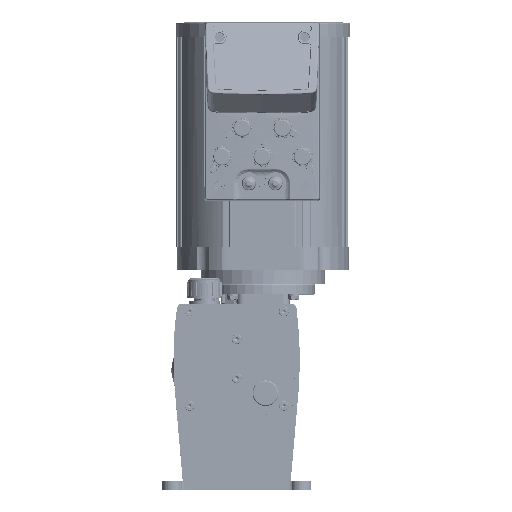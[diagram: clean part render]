
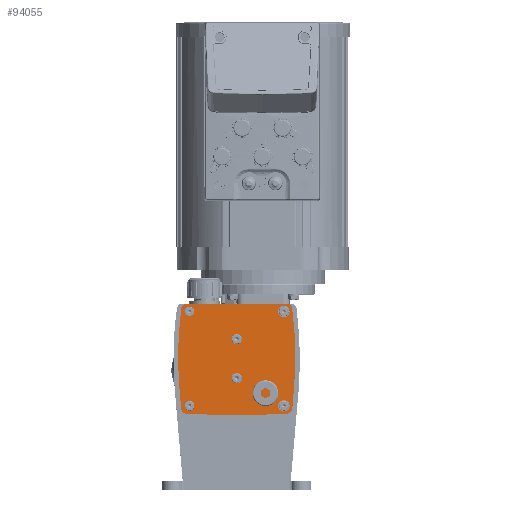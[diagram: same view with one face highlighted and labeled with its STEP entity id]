
A CAD part, top view. The second image highlights one B-rep face of the part: STEP entity #94055.
In plain terms, the highlighted planar face has unit normal (0, 0, 1).
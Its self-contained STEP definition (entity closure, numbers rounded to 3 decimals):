
#2342 = LINE ( 'NONE', #170065, #41292 ) ;
#4731 = DIRECTION ( 'NONE',  ( -0.09, 0.996, 0. ) ) ;
#8148 = CARTESIAN_POINT ( 'NONE',  ( 41.84, -10.59, 65. ) ) ;
#9947 = VECTOR ( 'NONE', #27675, 1000. ) ;
#10126 = EDGE_CURVE ( 'NONE', #206863, #45469, #77484, .T. ) ;
#10247 = CARTESIAN_POINT ( 'NONE',  ( -7.848, -32.099, 65. ) ) ;
#11480 = AXIS2_PLACEMENT_3D ( 'NONE', #79733, #195756, #96410 ) ;
#12718 = VECTOR ( 'NONE', #194091, 1000. ) ;
#14316 = CARTESIAN_POINT ( 'NONE',  ( -276.799, 18.889, 65. ) ) ;
#17786 = VECTOR ( 'NONE', #154153, 1000. ) ;
#20607 = DIRECTION ( 'NONE',  ( -1., 0., 0. ) ) ;
#27675 = DIRECTION ( 'NONE',  ( -0.999, -0.033, 0. ) ) ;
#28172 = CARTESIAN_POINT ( 'NONE',  ( 35.214, 65.302, 65. ) ) ;
#28257 = VECTOR ( 'NONE', #208137, 1000. ) ;
#28837 = DIRECTION ( 'NONE',  ( 0., 0., -1. ) ) ;
#31020 = DIRECTION ( 'NONE',  ( -1., 0., 0. ) ) ;
#36596 = CARTESIAN_POINT ( 'NONE',  ( -51.161, 60.308, 65. ) ) ;
#41292 = VECTOR ( 'NONE', #4731, 1000. ) ;
#45469 = VERTEX_POINT ( 'NONE', #89195 ) ;
#47211 = DIRECTION ( 'NONE',  ( 0., 0., -1. ) ) ;
#48785 = CARTESIAN_POINT ( 'NONE',  ( 40.421, 60.975, 65. ) ) ;
#54749 = CARTESIAN_POINT ( 'NONE',  ( -50.91, 65.302, 65. ) ) ;
#55537 = EDGE_CURVE ( 'NONE', #170148, #63909, #61991, .T. ) ;
#55540 = EDGE_CURVE ( 'NONE', #45469, #180944, #189116, .T. ) ;
#58275 = AXIS2_PLACEMENT_3D ( 'NONE', #14316, #130339, #31020 ) ;
#59225 = LINE ( 'NONE', #10247, #9947 ) ;
#60667 = CARTESIAN_POINT ( 'NONE',  ( -56.117, 60.975, 65. ) ) ;
#61991 = LINE ( 'NONE', #144159, #12718 ) ;
#63909 = VERTEX_POINT ( 'NONE', #74587 ) ;
#64462 = EDGE_CURVE ( 'NONE', #128144, #80766, #187187, .T. ) ;
#67024 = DIRECTION ( 'NONE',  ( 0., 0., -1. ) ) ;
#70357 = ORIENTED_EDGE ( 'NONE', *, *, #105685, .F. ) ;
#70429 = ORIENTED_EDGE ( 'NONE', *, *, #55537, .F. ) ;
#74526 = ORIENTED_EDGE ( 'NONE', *, *, #64462, .F. ) ;
#74587 = CARTESIAN_POINT ( 'NONE',  ( -50.91, -30.686, 65. ) ) ;
#77484 = LINE ( 'NONE', #92081, #28257 ) ;
#79733 = CARTESIAN_POINT ( 'NONE',  ( 261.104, 18.889, 65. ) ) ;
#79878 = AXIS2_PLACEMENT_3D ( 'NONE', #36596, #119934, #20607 ) ;
#80089 = CARTESIAN_POINT ( 'NONE',  ( -51.161, 60.308, 65. ) ) ;
#80766 = VERTEX_POINT ( 'NONE', #48785 ) ;
#89195 = CARTESIAN_POINT ( 'NONE',  ( 40.421, -26.359, 65. ) ) ;
#92081 = CARTESIAN_POINT ( 'NONE',  ( 41.84, -10.59, 65. ) ) ;
#94055 = ADVANCED_FACE ( 'NONE', ( #177296 ), #185878, .F. ) ;
#96410 = DIRECTION ( 'NONE',  ( -1., 0., 0. ) ) ;
#96753 = DIRECTION ( 'NONE',  ( -1., 0., 0. ) ) ;
#99064 = EDGE_CURVE ( 'NONE', #127635, #173181, #2342, .T. ) ;
#104919 = VERTEX_POINT ( 'NONE', #117042 ) ;
#105685 = EDGE_CURVE ( 'NONE', #160295, #104919, #177045, .T. ) ;
#107709 = EDGE_LOOP ( 'NONE', ( #70357, #166481, #149747, #117721, #70429, #142339, #170529, #189358, #108157, #74526, #152131 ) ) ;
#108157 = ORIENTED_EDGE ( 'NONE', *, *, #113540, .F. ) ;
#113540 = EDGE_CURVE ( 'NONE', #80766, #206863, #206602, .T. ) ;
#117042 = CARTESIAN_POINT ( 'NONE',  ( -50.91, 65.302, 65. ) ) ;
#117409 = EDGE_CURVE ( 'NONE', #63909, #127635, #210736, .T. ) ;
#117721 = ORIENTED_EDGE ( 'NONE', *, *, #117409, .F. ) ;
#119934 = DIRECTION ( 'NONE',  ( 0., 0., -1. ) ) ;
#120503 = CARTESIAN_POINT ( 'NONE',  ( -7.848, -32.099, 65. ) ) ;
#127635 = VERTEX_POINT ( 'NONE', #151808 ) ;
#128144 = VERTEX_POINT ( 'NONE', #28172 ) ;
#128163 = CARTESIAN_POINT ( 'NONE',  ( 35.466, -25.692, 65. ) ) ;
#130112 = EDGE_CURVE ( 'NONE', #104919, #128144, #160536, .T. ) ;
#130339 = DIRECTION ( 'NONE',  ( 0., 0., -1. ) ) ;
#138490 = AXIS2_PLACEMENT_3D ( 'NONE', #128163, #28837, #144876 ) ;
#142339 = ORIENTED_EDGE ( 'NONE', *, *, #201005, .F. ) ;
#144159 = CARTESIAN_POINT ( 'NONE',  ( -7.848, -32.099, 65. ) ) ;
#144876 = DIRECTION ( 'NONE',  ( -1., 0., 0. ) ) ;
#145149 = AXIS2_PLACEMENT_3D ( 'NONE', #80089, #196099, #96753 ) ;
#146622 = CARTESIAN_POINT ( 'NONE',  ( -51.161, -25.692, 65. ) ) ;
#147475 = EDGE_CURVE ( 'NONE', #173181, #160295, #171594, .T. ) ;
#149747 = ORIENTED_EDGE ( 'NONE', *, *, #99064, .F. ) ;
#151808 = CARTESIAN_POINT ( 'NONE',  ( -56.117, -26.359, 65. ) ) ;
#152131 = ORIENTED_EDGE ( 'NONE', *, *, #130112, .F. ) ;
#154153 = DIRECTION ( 'NONE',  ( 1., 0., 0. ) ) ;
#160295 = VERTEX_POINT ( 'NONE', #60667 ) ;
#160536 = LINE ( 'NONE', #54749, #17786 ) ;
#163229 = DIRECTION ( 'NONE',  ( -1., 0., 0. ) ) ;
#166409 = CARTESIAN_POINT ( 'NONE',  ( 35.466, 60.308, 65. ) ) ;
#166481 = ORIENTED_EDGE ( 'NONE', *, *, #147475, .F. ) ;
#170065 = CARTESIAN_POINT ( 'NONE',  ( -56.117, -26.359, 65. ) ) ;
#170148 = VERTEX_POINT ( 'NONE', #120503 ) ;
#170529 = ORIENTED_EDGE ( 'NONE', *, *, #55540, .F. ) ;
#171594 = CIRCLE ( 'NONE', #11480, 320. ) ;
#172675 = AXIS2_PLACEMENT_3D ( 'NONE', #146622, #47211, #163229 ) ;
#173181 = VERTEX_POINT ( 'NONE', #194615 ) ;
#175629 = AXIS2_PLACEMENT_3D ( 'NONE', #166409, #67024, #183048 ) ;
#177045 = CIRCLE ( 'NONE', #145149, 5. ) ;
#177294 = CARTESIAN_POINT ( 'NONE',  ( 35.214, -30.686, 65. ) ) ;
#177296 = FACE_OUTER_BOUND ( 'NONE', #107709, .T. ) ;
#180944 = VERTEX_POINT ( 'NONE', #177294 ) ;
#183048 = DIRECTION ( 'NONE',  ( -1., 0., 0. ) ) ;
#185878 = PLANE ( 'NONE',  #79878 ) ;
#187187 = CIRCLE ( 'NONE', #175629, 5. ) ;
#189116 = CIRCLE ( 'NONE', #138490, 5. ) ;
#189358 = ORIENTED_EDGE ( 'NONE', *, *, #10126, .F. ) ;
#194091 = DIRECTION ( 'NONE',  ( -0.999, 0.033, 0. ) ) ;
#194615 = CARTESIAN_POINT ( 'NONE',  ( -57.535, -10.59, 65. ) ) ;
#195756 = DIRECTION ( 'NONE',  ( 0., 0., -1. ) ) ;
#196099 = DIRECTION ( 'NONE',  ( 0., 0., -1. ) ) ;
#201005 = EDGE_CURVE ( 'NONE', #180944, #170148, #59225, .T. ) ;
#206602 = CIRCLE ( 'NONE', #58275, 320. ) ;
#206863 = VERTEX_POINT ( 'NONE', #8148 ) ;
#208137 = DIRECTION ( 'NONE',  ( -0.09, -0.996, 0. ) ) ;
#210736 = CIRCLE ( 'NONE', #172675, 5. ) ;
